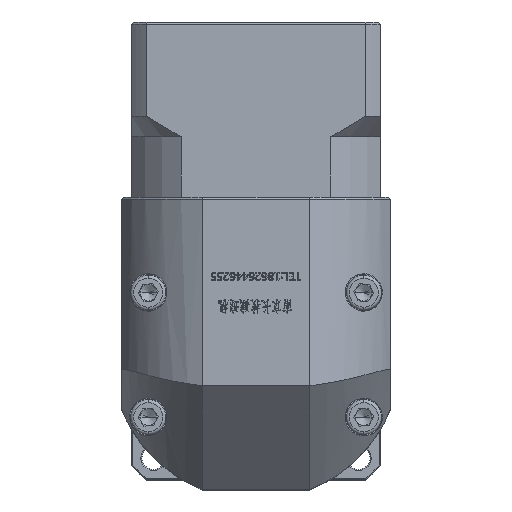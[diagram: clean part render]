
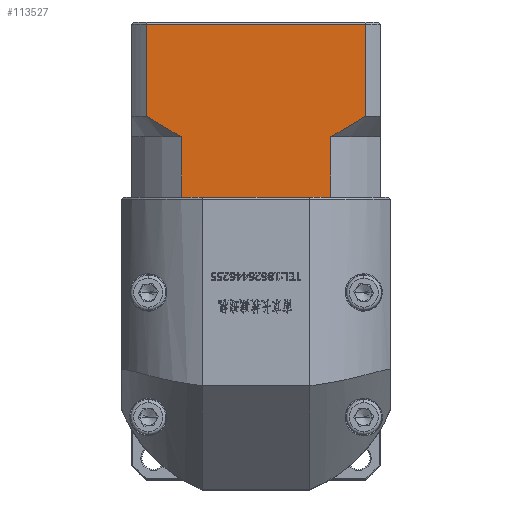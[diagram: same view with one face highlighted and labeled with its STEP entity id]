
A CAD part, top view. The second image highlights one B-rep face of the part: STEP entity #113527.
In plain terms, the highlighted planar face has unit normal (0, 0, 1).
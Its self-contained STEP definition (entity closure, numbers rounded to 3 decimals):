
#72 = CARTESIAN_POINT ( 'NONE',  ( 30.263, 68.173, 200.65 ) ) ;
#89 = VERTEX_POINT ( 'NONE', #29674 ) ;
#1219 = ORIENTED_EDGE ( 'NONE', *, *, #57175, .F. ) ;
#2304 = VECTOR ( 'NONE', #142600, 1000. ) ;
#3632 = LINE ( 'NONE', #11763, #151925 ) ;
#7034 = EDGE_CURVE ( 'NONE', #125904, #58197, #49808, .T. ) ;
#11763 = CARTESIAN_POINT ( 'NONE',  ( -26.195, 48.673, 200.65 ) ) ;
#13867 = B_SPLINE_CURVE_WITH_KNOTS ( 'NONE', 3,
 ( #20339, #90525, #125829, #55653, #137525, #67464 ),
 .UNSPECIFIED., .F., .F.,
 ( 4, 2, 4 ),
 ( 0.052, 0.057, 0.062 ),
 .UNSPECIFIED. ) ;
#15633 = AXIS2_PLACEMENT_3D ( 'NONE', #125762, #55597, #137480 ) ;
#17577 = LINE ( 'NONE', #97066, #138423 ) ;
#17997 = LINE ( 'NONE', #82040, #107789 ) ;
#20290 = EDGE_CURVE ( 'NONE', #81223, #43433, #87336, .T. ) ;
#20339 = CARTESIAN_POINT ( 'NONE',  ( -22.652, 68.173, 200.65 ) ) ;
#22339 = ORIENTED_EDGE ( 'NONE', *, *, #66629, .T. ) ;
#22342 = VECTOR ( 'NONE', #109522, 1000. ) ;
#22505 = CARTESIAN_POINT ( 'NONE',  ( 23.29, 63.924, 200.65 ) ) ;
#23133 = DIRECTION ( 'NONE',  ( 0., -1., 0. ) ) ;
#25759 = VERTEX_POINT ( 'NONE', #82369 ) ;
#29025 = LINE ( 'NONE', #89688, #115187 ) ;
#29674 = CARTESIAN_POINT ( 'NONE',  ( -22.652, 68.173, 200.65 ) ) ;
#30994 = EDGE_CURVE ( 'NONE', #125904, #43433, #143208, .T. ) ;
#31423 = VERTEX_POINT ( 'NONE', #118098 ) ;
#31426 = ORIENTED_EDGE ( 'NONE', *, *, #7034, .T. ) ;
#34005 = EDGE_CURVE ( 'NONE', #117954, #131306, #3632, .T. ) ;
#34474 = EDGE_CURVE ( 'NONE', #31423, #117954, #127869, .T. ) ;
#36382 = CARTESIAN_POINT ( 'NONE',  ( 30.263, 68.173, 200.65 ) ) ;
#36510 = ORIENTED_EDGE ( 'NONE', *, *, #20290, .T. ) ;
#38125 = CARTESIAN_POINT ( 'NONE',  ( 20.842, 48.673, 200.65 ) ) ;
#38789 = ORIENTED_EDGE ( 'NONE', *, *, #34005, .T. ) ;
#43433 = VERTEX_POINT ( 'NONE', #36382 ) ;
#46074 = CARTESIAN_POINT ( 'NONE',  ( 24.715, 64.724, 200.65 ) ) ;
#48634 = EDGE_CURVE ( 'NONE', #31423, #56474, #29025, .T. ) ;
#49808 = LINE ( 'NONE', #130861, #2304 ) ;
#51922 = DIRECTION ( 'NONE',  ( 0., 1., 0. ) ) ;
#55597 = DIRECTION ( 'NONE',  ( 0., 0., -1. ) ) ;
#55653 = CARTESIAN_POINT ( 'NONE',  ( -17.106, 64.725, 200.65 ) ) ;
#56446 = CARTESIAN_POINT ( 'NONE',  ( 30.263, 90.373, 200.65 ) ) ;
#56474 = VERTEX_POINT ( 'NONE', #98217 ) ;
#57175 = EDGE_CURVE ( 'NONE', #89, #58197, #17577, .T. ) ;
#58197 = VERTEX_POINT ( 'NONE', #60957 ) ;
#58373 = CARTESIAN_POINT ( 'NONE',  ( 21.833, 63.173, 200.65 ) ) ;
#58913 = ORIENTED_EDGE ( 'NONE', *, *, #126206, .T. ) ;
#60957 = CARTESIAN_POINT ( 'NONE',  ( -22.652, 90.373, 200.65 ) ) ;
#62509 = CARTESIAN_POINT ( 'NONE',  ( -26.195, 48.673, 200.65 ) ) ;
#66629 = EDGE_CURVE ( 'NONE', #89, #56474, #13867, .T. ) ;
#67464 = CARTESIAN_POINT ( 'NONE',  ( -14.222, 63.173, 200.65 ) ) ;
#67592 = ORIENTED_EDGE ( 'NONE', *, *, #34474, .T. ) ;
#70172 = CARTESIAN_POINT ( 'NONE',  ( 28.9, 67.272, 200.65 ) ) ;
#70577 = DIRECTION ( 'NONE',  ( 1., 0., 0. ) ) ;
#76840 = FACE_OUTER_BOUND ( 'NONE', #102202, .T. ) ;
#80290 = VECTOR ( 'NONE', #70577, 1000. ) ;
#81223 = VERTEX_POINT ( 'NONE', #101056 ) ;
#82040 = CARTESIAN_POINT ( 'NONE',  ( 21.833, 63.173, 200.65 ) ) ;
#82369 = CARTESIAN_POINT ( 'NONE',  ( 21.833, 48.673, 200.65 ) ) ;
#87336 = B_SPLINE_CURVE_WITH_KNOTS ( 'NONE', 3,
 ( #58373, #22505, #46074, #140209, #70172, #72 ),
 .UNSPECIFIED., .F., .F.,
 ( 4, 2, 4 ),
 ( 0.1, 0.104, 0.109 ),
 .UNSPECIFIED. ) ;
#89688 = CARTESIAN_POINT ( 'NONE',  ( -14.222, 63.173, 200.65 ) ) ;
#90525 = CARTESIAN_POINT ( 'NONE',  ( -21.292, 67.274, 200.65 ) ) ;
#97066 = CARTESIAN_POINT ( 'NONE',  ( -22.652, 63.173, 200.65 ) ) ;
#97736 = CARTESIAN_POINT ( 'NONE',  ( 30.263, 63.173, 200.65 ) ) ;
#98217 = CARTESIAN_POINT ( 'NONE',  ( -14.222, 63.173, 200.65 ) ) ;
#101056 = CARTESIAN_POINT ( 'NONE',  ( 21.833, 63.173, 200.65 ) ) ;
#102202 = EDGE_LOOP ( 'NONE', ( #119859, #31426, #1219, #22339, #143901, #67592, #38789, #58913, #132481, #36510 ) ) ;
#105503 = LINE ( 'NONE', #62509, #136562 ) ;
#107789 = VECTOR ( 'NONE', #23133, 1000. ) ;
#109522 = DIRECTION ( 'NONE',  ( 0., -1., 0. ) ) ;
#110383 = CARTESIAN_POINT ( 'NONE',  ( -13.231, 48.673, 200.65 ) ) ;
#113527 = ADVANCED_FACE ( 'NONE', ( #76840 ), #124752, .F. ) ;
#115187 = VECTOR ( 'NONE', #149519, 1000. ) ;
#117954 = VERTEX_POINT ( 'NONE', #110383 ) ;
#118098 = CARTESIAN_POINT ( 'NONE',  ( -14.222, 48.673, 200.65 ) ) ;
#119859 = ORIENTED_EDGE ( 'NONE', *, *, #30994, .F. ) ;
#124752 = PLANE ( 'NONE',  #15633 ) ;
#125762 = CARTESIAN_POINT ( 'NONE',  ( -26.195, 90.873, 200.65 ) ) ;
#125829 = CARTESIAN_POINT ( 'NONE',  ( -19.914, 66.401, 200.65 ) ) ;
#125904 = VERTEX_POINT ( 'NONE', #56446 ) ;
#126206 = EDGE_CURVE ( 'NONE', #131306, #25759, #105503, .T. ) ;
#127869 = LINE ( 'NONE', #142603, #80290 ) ;
#128486 = DIRECTION ( 'NONE',  ( 1., 0., 0. ) ) ;
#130861 = CARTESIAN_POINT ( 'NONE',  ( -26.195, 90.373, 200.65 ) ) ;
#131306 = VERTEX_POINT ( 'NONE', #38125 ) ;
#132481 = ORIENTED_EDGE ( 'NONE', *, *, #141337, .F. ) ;
#132594 = DIRECTION ( 'NONE',  ( 1., 0., 0. ) ) ;
#136562 = VECTOR ( 'NONE', #132594, 1000. ) ;
#137480 = DIRECTION ( 'NONE',  ( 0., 1., 0. ) ) ;
#137525 = CARTESIAN_POINT ( 'NONE',  ( -15.674, 63.921, 200.65 ) ) ;
#138423 = VECTOR ( 'NONE', #51922, 1000. ) ;
#140209 = CARTESIAN_POINT ( 'NONE',  ( 27.52, 66.398, 200.65 ) ) ;
#141337 = EDGE_CURVE ( 'NONE', #81223, #25759, #17997, .T. ) ;
#142600 = DIRECTION ( 'NONE',  ( -1., 0., 0. ) ) ;
#142603 = CARTESIAN_POINT ( 'NONE',  ( -26.195, 48.673, 200.65 ) ) ;
#143208 = LINE ( 'NONE', #97736, #22342 ) ;
#143901 = ORIENTED_EDGE ( 'NONE', *, *, #48634, .F. ) ;
#149519 = DIRECTION ( 'NONE',  ( 0., 1., 0. ) ) ;
#151925 = VECTOR ( 'NONE', #128486, 1000. ) ;
